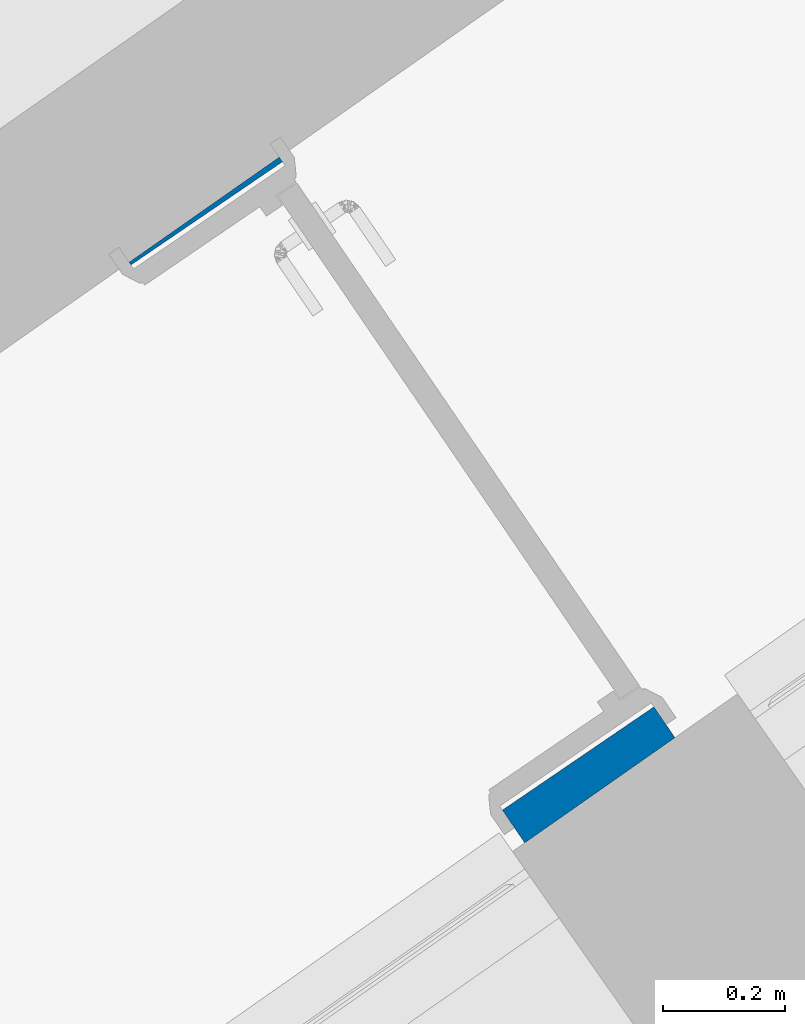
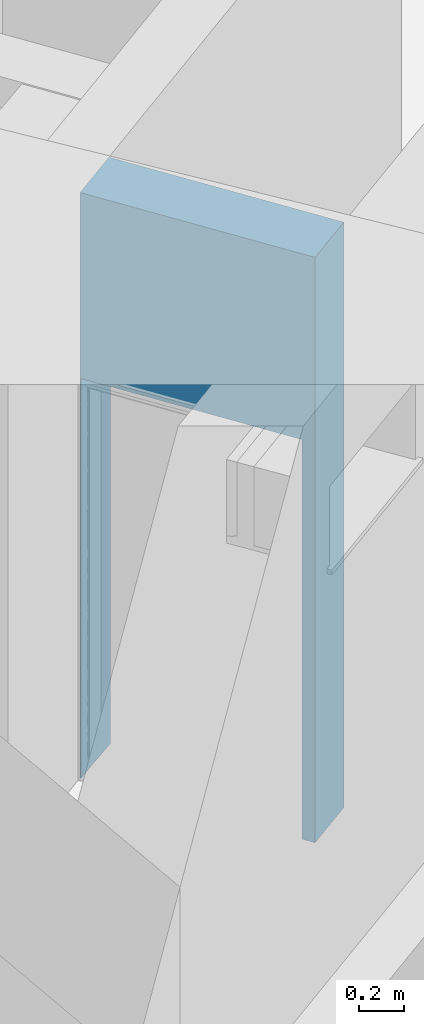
# One storey, part 39 of 112: 1 wall, 1 opening.
"""IFC2X3 building model written with IfcOpenShell, lengths in millimetres."""

from ifc_helpers import new_model, entity, si_unit, converted_unit, derived_unit, direction, frame, frame_2d, origin, place, context, subcontext, project, spatial, polyline, rectangle, outline, extrude, material, layer, layer_set, layer_usage, type_object, element, save


model = new_model("IFC2X3")

# Units and contexts
model_context = context("Model", 3, precision=0.01, world=origin(), true_north=direction((6.123031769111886e-17, 1.0)))
body_context = subcontext(model_context, "Body", "Model", "MODEL_VIEW")
ifc_project = project(units=[si_unit("LENGTHUNIT", "METRE", prefix="MILLI"), si_unit("AREAUNIT", "SQUARE_METRE"), si_unit("VOLUMEUNIT", "CUBIC_METRE"), converted_unit("PLANEANGLEUNIT", "DEGREE", entity("IfcRatioMeasure", 0.017453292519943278), si_unit("PLANEANGLEUNIT", "RADIAN"), dimensions=[0, 0, 0, 0, 0, 0, 0]), si_unit("MASSUNIT", "GRAM", prefix="KILO"), derived_unit("MASSDENSITYUNIT", [(si_unit("MASSUNIT", "GRAM", prefix="KILO"), 1), (si_unit("LENGTHUNIT", "METRE"), -3)]), derived_unit("MOMENTOFINERTIAUNIT", [(si_unit("LENGTHUNIT", "METRE"), 4)]), si_unit("TIMEUNIT", "SECOND"), si_unit("FREQUENCYUNIT", "HERTZ"), si_unit("THERMODYNAMICTEMPERATUREUNIT", "DEGREE_CELSIUS"), derived_unit("THERMALTRANSMITTANCEUNIT", [(si_unit("MASSUNIT", "GRAM", prefix="KILO"), 1), (si_unit("THERMODYNAMICTEMPERATUREUNIT", "KELVIN"), -1), (si_unit("TIMEUNIT", "SECOND"), -3)]), derived_unit("THERMALCONDUCTANCEUNIT", [(si_unit("MASSUNIT", "GRAM", prefix="KILO"), 1), (si_unit("LENGTHUNIT", "METRE"), 1), (si_unit("THERMODYNAMICTEMPERATUREUNIT", "KELVIN"), -1), (si_unit("TIMEUNIT", "SECOND"), -3)]), derived_unit("VOLUMETRICFLOWRATEUNIT", [(si_unit("LENGTHUNIT", "METRE"), 3), (si_unit("TIMEUNIT", "SECOND"), -1)]), derived_unit("MASSFLOWRATEUNIT", [(si_unit("MASSUNIT", "GRAM", prefix="KILO"), 1), (si_unit("TIMEUNIT", "SECOND"), -1)]), derived_unit("ROTATIONALFREQUENCYUNIT", [(si_unit("TIMEUNIT", "SECOND"), -1)]), si_unit("ELECTRICCURRENTUNIT", "AMPERE"), si_unit("ELECTRICVOLTAGEUNIT", "VOLT"), si_unit("POWERUNIT", "WATT"), converted_unit("FORCEUNIT", "KIP", entity("IfcRatioMeasure", 2.088543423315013e-05), si_unit("FORCEUNIT", "NEWTON"), dimensions=[1, 1, -2, 0, 0, 0, 0]), si_unit("ILLUMINANCEUNIT", "LUX"), si_unit("LUMINOUSFLUXUNIT", "LUMEN"), si_unit("LUMINOUSINTENSITYUNIT", "CANDELA"), derived_unit("USERDEFINED", [(si_unit("MASSUNIT", "GRAM", prefix="KILO"), -1), (si_unit("LENGTHUNIT", "METRE"), -2), (si_unit("TIMEUNIT", "SECOND"), 3), (si_unit("LUMINOUSFLUXUNIT", "LUMEN"), 1)]), derived_unit("USERDEFINED", [(si_unit("MASSUNIT", "GRAM", prefix="KILO"), 1), (si_unit("LENGTHUNIT", "METRE"), 3), (si_unit("TIMEUNIT", "SECOND"), -3), (si_unit("ELECTRICCURRENTUNIT", "AMPERE"), -2)]), derived_unit("USERDEFINED", [(si_unit("LENGTHUNIT", "METRE"), 2), (si_unit("TIMEUNIT", "SECOND"), -2)]), derived_unit("SOUNDPOWERUNIT", [(si_unit("MASSUNIT", "GRAM", prefix="KILO"), 1), (si_unit("LENGTHUNIT", "METRE"), 2), (si_unit("TIMEUNIT", "SECOND"), -3)]), derived_unit("SOUNDPRESSUREUNIT", [(si_unit("MASSUNIT", "GRAM", prefix="KILO"), 1), (si_unit("LENGTHUNIT", "METRE"), -1), (si_unit("TIMEUNIT", "SECOND"), -2)]), derived_unit("LINEARVELOCITYUNIT", [(si_unit("LENGTHUNIT", "METRE"), 1), (si_unit("TIMEUNIT", "SECOND"), -1)]), si_unit("PRESSUREUNIT", "PASCAL"), derived_unit("USERDEFINED", [(si_unit("LENGTHUNIT", "METRE"), -2), (si_unit("MASSUNIT", "GRAM", prefix="KILO"), 1), (si_unit("TIMEUNIT", "SECOND"), -2)]), derived_unit("LINEARFORCEUNIT", [(si_unit("MASSUNIT", "GRAM", prefix="KILO"), 1), (si_unit("LENGTHUNIT", "METRE"), 1), (si_unit("TIMEUNIT", "SECOND"), -2), (si_unit("LENGTHUNIT", "METRE"), -1)]), derived_unit("PLANARFORCEUNIT", [(si_unit("MASSUNIT", "GRAM", prefix="KILO"), 1), (si_unit("LENGTHUNIT", "METRE"), 1), (si_unit("TIMEUNIT", "SECOND"), -2), (si_unit("LENGTHUNIT", "METRE"), -2)]), derived_unit("SPECIFICHEATCAPACITYUNIT", [(si_unit("LENGTHUNIT", "METRE"), 2), (si_unit("TIMEUNIT", "SECOND"), -2), (si_unit("THERMODYNAMICTEMPERATUREUNIT", "KELVIN"), -1)]), derived_unit("VAPORPERMEABILITYUNIT", [(si_unit("TIMEUNIT", "SECOND"), 1), (si_unit("LENGTHUNIT", "METRE"), -1)]), derived_unit("DYNAMICVISCOSITYUNIT", [(si_unit("MASSUNIT", "GRAM", prefix="KILO"), 1), (si_unit("LENGTHUNIT", "METRE"), -1), (si_unit("TIMEUNIT", "SECOND"), -1)]), derived_unit("THERMALEXPANSIONCOEFFICIENTUNIT", [(si_unit("THERMODYNAMICTEMPERATUREUNIT", "KELVIN"), -1)])], contexts=[model_context])

# Site, building, storey
site_placement = place(None, frame((0.0, 0.0, 0.0), z_axis=(0.0, 0.0, 1.0), x_axis=(0.8191520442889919, 0.5735764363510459, 0.0)))
site = spatial("IfcSite", under=ifc_project, at=site_placement, Name="Default", CompositionType="ELEMENT")
building_placement = place(site_placement, origin())
building = spatial("IfcBuilding", under=site, at=building_placement, CompositionType="ELEMENT")
storey_placement = place(building_placement, frame((0.0, 0.0, -3600.0)))
storey = spatial("IfcBuildingStorey", under=building, at=storey_placement, Name="0.UG -3.60", CompositionType="ELEMENT", Elevation=-3600.0000000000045)

# Wall, opening
ifc_material = material(Name="Analytical Wall Surface_CJC")
ifc_layer = layer(ifc_material, 300.0)
ifc_layer_set = layer_set([ifc_layer], Name="Basic Wall:Wand_Aussen_30")
ifc_layer_usage = layer_usage(ifc_layer_set, "AXIS2", "NEGATIVE", 150.0)
wall_type = type_object("IfcWallType", Name="Basic Wall:Wand_Aussen_30", PredefinedType="STANDARD", material=ifc_layer_set)
wall_placement = place(storey_placement, frame((-220776.67959344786, 52569.449476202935, 300.0), z_axis=(0.0, 0.0, 1.0), x_axis=(0.01272958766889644, 0.9999189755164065, 0.0)))
wall = element("IfcWallStandardCase", 1, at=wall_placement, inside=storey, type_object=wall_type, material=ifc_layer_usage, Name="Basic Wall:Wand_Aussen_30", ObjectType="Basic Wall:Wand_Aussen_30", context=body_context, shape_type="SweptSolid", body=[
    extrude(outline(polyline([(3.819185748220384, -150.0), (1153.9123714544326, -150.0), (1150.0931857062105, 150.0), (0.0, 150.0), (3.819185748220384, -150.0)])), origin(), (0.0, 0.0, 1.0), 3150.0),
])
opening_placement = place(wall_placement, frame((1144.8466288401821, 150.0, 0.0)))
element("IfcOpeningElement", 2, at=opening_placement, cuts=wall, Name="Doors_IntSgl:100x210:1", ObjectType="Opening", context=body_context, shape_type="SweptSolid", body=[
    extrude(rectangle(XDim=2150.000000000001, YDim=1079.9999999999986, at=frame_2d((1075.0000000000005, 539.9999999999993), x_axis=(1.0, 0.0))), frame((0.0, 0.0, 0.0), z_axis=(0.0, -1.0, 0.0), x_axis=(0.0, 0.0, 1.0)), (0.0, 0.0, 1.0), 300.0),
])

save(model, "model.ifc")
